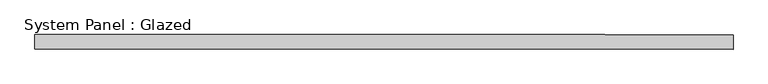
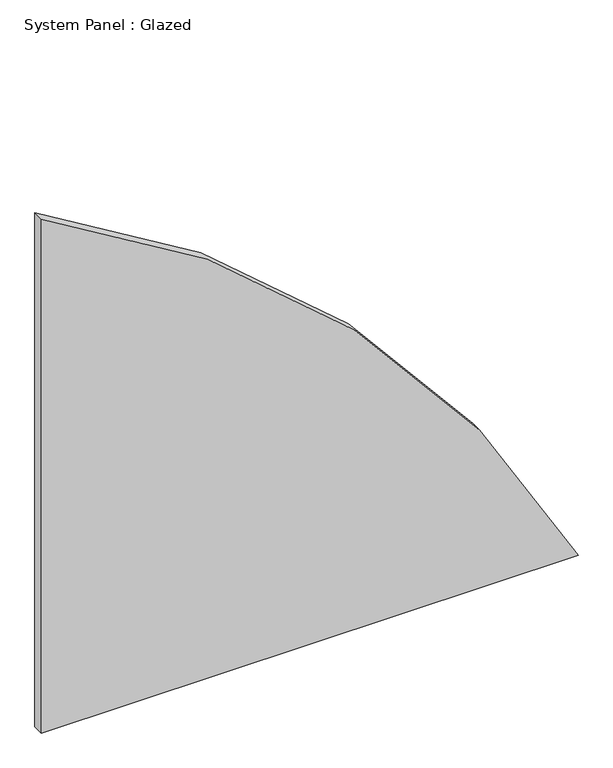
"""IFC4 building model written with IfcOpenShell, lengths in millimetres: plate geometry, System Panel : Glazed."""

from ifc_helpers import new_model, si_unit, point, frame, frame_2d, origin, place, context, project, spatial, polyline, circle_curve, trimmed, segment, composite_curve, outline, extrude, source, transform, mapped, element, save


def system_panel_glazed_f3bbe348(model_context):
    return source(origin(), model_context, "Body", "SweptSolid", [
        extrude(outline(composite_curve([segment(polyline([(0.0, -602.5241427), (0.0, 602.5241427)]), True, "CONTINUOUS"), segment(trimmed(circle_curve(frame_2d((-1159.1383308, -1791.7397487)), 2660.0942185), [point((0.0, 602.5241427))], [point((1220.3295707, -602.5241427))], False, "CARTESIAN"), True, "CONTINUOUS"), segment(polyline([(1220.3295707, -602.5241427), (0.0, -602.5241427)]), True, "CONTINUOUS")], self_intersect=False)), frame((0.0, 24.5, 0.0), z_axis=(0.0, 1.0, 0.0), x_axis=(0.0, 0.0, 1.0)), (0.0, 0.0, 1.0), 25.0),
    ])


if __name__ == "__main__":
    model = new_model("IFC4")
    model_context = context("Model", 3, world=origin())
    ifc_project = project(units=[si_unit("LENGTHUNIT", "METRE", prefix="MILLI")], contexts=[model_context])
    site = spatial("IfcSite", under=ifc_project)
    building = spatial("IfcBuilding", under=site)
    placement = place(None, origin())
    system_panel_glazed_shape = system_panel_glazed_f3bbe348(model_context)
    element("IfcPlate", 1, ObjectType="System Panel : Glazed", at=placement, inside=building, context=model_context, shape_type="MappedRepresentation", body=[
        mapped(system_panel_glazed_shape, transform((0.0, 0.0, 0.0), x_axis=(1.0, 0.0, 0.0), y_axis=(0.0, 1.0, 0.0), z_axis=(0.0, 0.0, 1.0))),
    ])
    save(model, "model.ifc")
